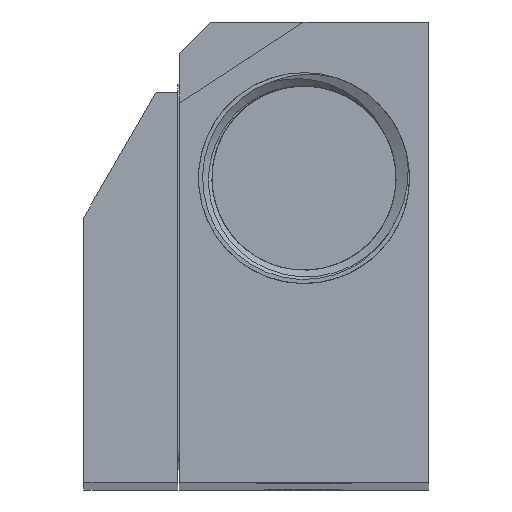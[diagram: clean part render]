
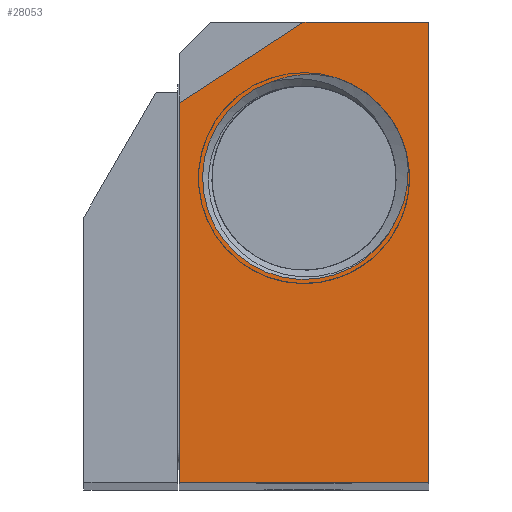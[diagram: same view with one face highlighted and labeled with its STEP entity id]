
A CAD part, top view. The second image highlights one B-rep face of the part: STEP entity #28053.
In plain terms, the highlighted planar face has unit normal (0, 0, 1).
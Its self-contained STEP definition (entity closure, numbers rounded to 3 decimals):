
#1237 = VERTEX_POINT ( 'NONE', #68942 ) ;
#1614 = VECTOR ( 'NONE', #25681, 1000. ) ;
#1734 = ORIENTED_EDGE ( 'NONE', *, *, #76965, .T. ) ;
#3728 = VECTOR ( 'NONE', #55268, 1000. ) ;
#3847 = EDGE_CURVE ( 'NONE', #6645, #1237, #15108, .T. ) ;
#5263 = EDGE_CURVE ( 'NONE', #79466, #64513, #90294, .T. ) ;
#5971 = CARTESIAN_POINT ( 'NONE',  ( -1.786, 22.168, 140. ) ) ;
#6645 = VERTEX_POINT ( 'NONE', #50568 ) ;
#7937 = VERTEX_POINT ( 'NONE', #39811 ) ;
#9908 = CARTESIAN_POINT ( 'NONE',  ( -1.321, 19.651, 140. ) ) ;
#10055 = VECTOR ( 'NONE', #89835, 1000. ) ;
#11039 = CARTESIAN_POINT ( 'NONE',  ( -15.856, 24.394, 140. ) ) ;
#11555 = CARTESIAN_POINT ( 'NONE',  ( -8.793, 26.078, 140. ) ) ;
#12581 = CARTESIAN_POINT ( 'NONE',  ( -3.268, 24.331, 140. ) ) ;
#13085 = CARTESIAN_POINT ( 'NONE',  ( -6.013, 25.957, 140. ) ) ;
#13535 = CARTESIAN_POINT ( 'NONE',  ( -1.423, 21.047, 140. ) ) ;
#14309 = VECTOR ( 'NONE', #16599, 1000. ) ;
#15108 = LINE ( 'NONE', #21717, #77318 ) ;
#16154 = LINE ( 'NONE', #44887, #14309 ) ;
#16599 = DIRECTION ( 'NONE',  ( 0., 1., 0. ) ) ;
#16768 = DIRECTION ( 'NONE',  ( 0., -1., 0. ) ) ;
#18015 = AXIS2_PLACEMENT_3D ( 'NONE', #88444, #30494, #16768 ) ;
#18023 = EDGE_CURVE ( 'NONE', #7937, #20564, #60036, .T. ) ;
#18640 = CARTESIAN_POINT ( 'NONE',  ( -6.013, 25.957, 140. ) ) ;
#18722 = B_SPLINE_CURVE_WITH_KNOTS ( 'NONE', 3,
 ( #13535, #55953, #48408, #5971, #47923, #48872, #63963, #77174, #62570, #12581, #77649, #34758, #21076, #27706, #56437, #42246 ),
 .UNSPECIFIED., .F., .F.,
 ( 4, 2, 2, 2, 2, 2, 2, 4 ),
 ( 0., 0.001, 0.002, 0.003, 0.004, 0.004, 0.005, 0.007 ),
 .UNSPECIFIED. ) ;
#19160 = VERTEX_POINT ( 'NONE', #54114 ) ;
#20564 = VERTEX_POINT ( 'NONE', #50921 ) ;
#21076 = CARTESIAN_POINT ( 'NONE',  ( -4.177, 25.078, 140. ) ) ;
#21717 = CARTESIAN_POINT ( 'NONE',  ( 0., 0., 140. ) ) ;
#25060 = EDGE_LOOP ( 'NONE', ( #42052, #60531, #61941, #56822, #1734 ) ) ;
#25465 = CARTESIAN_POINT ( 'NONE',  ( -1.364, 20.701, 140. ) ) ;
#25681 = DIRECTION ( 'NONE',  ( -0.838, -0.545, 0. ) ) ;
#26589 = B_SPLINE_CURVE_WITH_KNOTS ( 'NONE', 3,
 ( #18640, #76137, #26669, #11555, #45998, #74759 ),
 .UNSPECIFIED., .F., .F.,
 ( 4, 2, 4 ),
 ( 0., 0.002, 0.004 ),
 .UNSPECIFIED. ) ;
#26669 = CARTESIAN_POINT ( 'NONE',  ( -7.389, 26.18, 140. ) ) ;
#27706 = CARTESIAN_POINT ( 'NONE',  ( -4.918, 25.54, 140. ) ) ;
#28053 = ADVANCED_FACE ( 'NONE', ( #34937, #28343 ), #63669, .F. ) ;
#28343 = FACE_BOUND ( 'NONE', #57716, .T. ) ;
#30494 = DIRECTION ( 'NONE',  ( 0., 0., -1. ) ) ;
#32093 = CARTESIAN_POINT ( 'NONE',  ( -1.725, 17.608, 140. ) ) ;
#33500 = EDGE_CURVE ( 'NONE', #78092, #79466, #69973, .T. ) ;
#34758 = CARTESIAN_POINT ( 'NONE',  ( -3.937, 24.906, 140. ) ) ;
#34937 = FACE_OUTER_BOUND ( 'NONE', #25060, .T. ) ;
#36039 = CIRCLE ( 'NONE', #18015, 6.5 ) ;
#36056 = EDGE_CURVE ( 'NONE', #7937, #19160, #36039, .T. ) ;
#37285 = ORIENTED_EDGE ( 'NONE', *, *, #36056, .T. ) ;
#39117 = ORIENTED_EDGE ( 'NONE', *, *, #18023, .F. ) ;
#39586 = CARTESIAN_POINT ( 'NONE',  ( -2.01, 16.976, 140. ) ) ;
#39811 = CARTESIAN_POINT ( 'NONE',  ( -2.01, 16.976, 140. ) ) ;
#42011 = LINE ( 'NONE', #71726, #3728 ) ;
#42052 = ORIENTED_EDGE ( 'NONE', *, *, #33500, .T. ) ;
#42246 = CARTESIAN_POINT ( 'NONE',  ( -6.013, 25.957, 140. ) ) ;
#44887 = CARTESIAN_POINT ( 'NONE',  ( 0., 29.5, 140. ) ) ;
#45998 = CARTESIAN_POINT ( 'NONE',  ( -9.468, 25.917, 140. ) ) ;
#47923 = CARTESIAN_POINT ( 'NONE',  ( -1.907, 22.434, 140. ) ) ;
#48408 = CARTESIAN_POINT ( 'NONE',  ( -1.578, 21.618, 140. ) ) ;
#48631 = AXIS2_PLACEMENT_3D ( 'NONE', #65989, #58459, #88190 ) ;
#48872 = CARTESIAN_POINT ( 'NONE',  ( -2.185, 22.952, 140. ) ) ;
#50568 = CARTESIAN_POINT ( 'NONE',  ( -16., 0., 140. ) ) ;
#50921 = CARTESIAN_POINT ( 'NONE',  ( -1.423, 21.047, 140. ) ) ;
#54114 = CARTESIAN_POINT ( 'NONE',  ( -10.117, 25.645, 140. ) ) ;
#55268 = DIRECTION ( 'NONE',  ( 0., -1., 0. ) ) ;
#55582 = EDGE_CURVE ( 'NONE', #20564, #74728, #18722, .T. ) ;
#55953 = CARTESIAN_POINT ( 'NONE',  ( -1.491, 21.335, 140. ) ) ;
#56018 = EDGE_CURVE ( 'NONE', #74728, #19160, #26589, .T. ) ;
#56437 = CARTESIAN_POINT ( 'NONE',  ( -5.447, 25.783, 140. ) ) ;
#56822 = ORIENTED_EDGE ( 'NONE', *, *, #3847, .T. ) ;
#57716 = EDGE_LOOP ( 'NONE', ( #39117, #37285, #70223, #86966 ) ) ;
#58459 = DIRECTION ( 'NONE',  ( 0., 0., -1. ) ) ;
#60036 = B_SPLINE_CURVE_WITH_KNOTS ( 'NONE', 3,
 ( #39586, #67880, #32093, #76341, #89612, #61756, #9908, #68338, #25465, #68803 ),
 .UNSPECIFIED., .F., .F.,
 ( 4, 2, 2, 2, 4 ),
 ( 0.009, 0.01, 0.011, 0.012, 0.013 ),
 .UNSPECIFIED. ) ;
#60531 = ORIENTED_EDGE ( 'NONE', *, *, #5263, .T. ) ;
#61756 = CARTESIAN_POINT ( 'NONE',  ( -1.342, 19.304, 140. ) ) ;
#61941 = ORIENTED_EDGE ( 'NONE', *, *, #66765, .T. ) ;
#62570 = CARTESIAN_POINT ( 'NONE',  ( -2.87, 23.906, 140. ) ) ;
#63669 = PLANE ( 'NONE',  #48631 ) ;
#63963 = CARTESIAN_POINT ( 'NONE',  ( -2.342, 23.204, 140. ) ) ;
#64513 = VERTEX_POINT ( 'NONE', #85925 ) ;
#65532 = CARTESIAN_POINT ( 'NONE',  ( 0., 29.5, 140. ) ) ;
#65989 = CARTESIAN_POINT ( 'NONE',  ( 0., 0., 140. ) ) ;
#66765 = EDGE_CURVE ( 'NONE', #64513, #6645, #42011, .T. ) ;
#67880 = CARTESIAN_POINT ( 'NONE',  ( -1.855, 17.286, 140. ) ) ;
#68338 = CARTESIAN_POINT ( 'NONE',  ( -1.332, 20.35, 140. ) ) ;
#68803 = CARTESIAN_POINT ( 'NONE',  ( -1.423, 21.047, 140. ) ) ;
#68942 = CARTESIAN_POINT ( 'NONE',  ( 0., 0., 140. ) ) ;
#69973 = LINE ( 'NONE', #90749, #10055 ) ;
#70223 = ORIENTED_EDGE ( 'NONE', *, *, #56018, .F. ) ;
#71726 = CARTESIAN_POINT ( 'NONE',  ( -16., 0., 140. ) ) ;
#74460 = CARTESIAN_POINT ( 'NONE',  ( -8., 29.5, 140. ) ) ;
#74728 = VERTEX_POINT ( 'NONE', #13085 ) ;
#74759 = CARTESIAN_POINT ( 'NONE',  ( -10.117, 25.645, 140. ) ) ;
#76137 = CARTESIAN_POINT ( 'NONE',  ( -6.696, 26.122, 140. ) ) ;
#76341 = CARTESIAN_POINT ( 'NONE',  ( -1.516, 18.277, 140. ) ) ;
#76965 = EDGE_CURVE ( 'NONE', #1237, #78092, #16154, .T. ) ;
#77174 = CARTESIAN_POINT ( 'NONE',  ( -2.684, 23.68, 140. ) ) ;
#77318 = VECTOR ( 'NONE', #79218, 1000. ) ;
#77649 = CARTESIAN_POINT ( 'NONE',  ( -3.481, 24.531, 140. ) ) ;
#78092 = VERTEX_POINT ( 'NONE', #65532 ) ;
#79218 = DIRECTION ( 'NONE',  ( 1., 0., 0. ) ) ;
#79466 = VERTEX_POINT ( 'NONE', #74460 ) ;
#85925 = CARTESIAN_POINT ( 'NONE',  ( -16., 24.3, 140. ) ) ;
#86966 = ORIENTED_EDGE ( 'NONE', *, *, #55582, .F. ) ;
#88190 = DIRECTION ( 'NONE',  ( 0., -1., 0. ) ) ;
#88444 = CARTESIAN_POINT ( 'NONE',  ( -8., 19.5, 140. ) ) ;
#89612 = CARTESIAN_POINT ( 'NONE',  ( -1.44, 18.618, 140. ) ) ;
#89835 = DIRECTION ( 'NONE',  ( -1., 0., 0. ) ) ;
#90294 = LINE ( 'NONE', #11039, #1614 ) ;
#90749 = CARTESIAN_POINT ( 'NONE',  ( -8., 29.5, 140. ) ) ;
